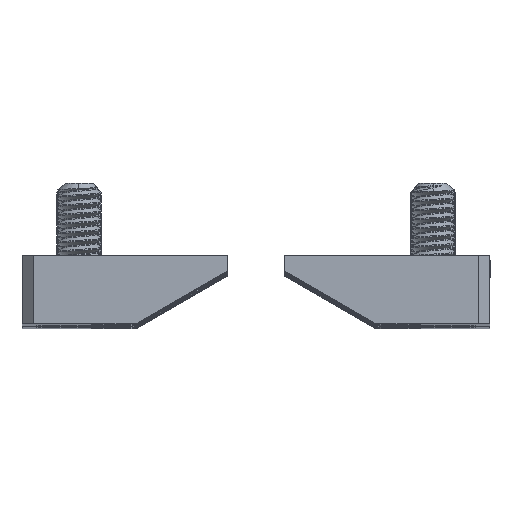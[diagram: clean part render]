
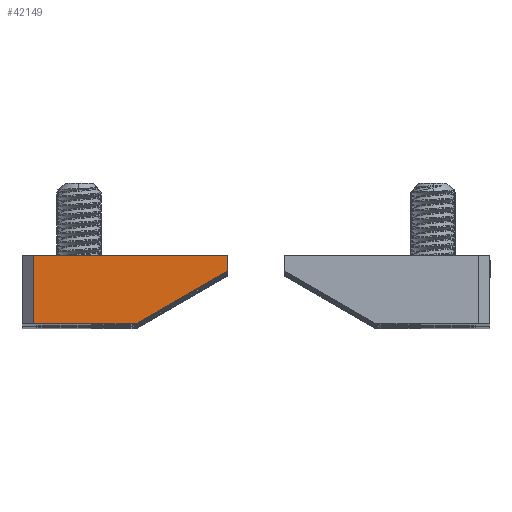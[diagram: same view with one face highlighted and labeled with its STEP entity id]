
A CAD part, top view. The second image highlights one B-rep face of the part: STEP entity #42149.
In plain terms, the highlighted planar face has unit normal (0, 0, 1).
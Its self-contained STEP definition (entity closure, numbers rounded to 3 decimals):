
#105 = ORIENTED_EDGE ( 'NONE', *, *, #1806, .T. ) ;
#1806 = EDGE_CURVE ( 'NONE', #25087, #12439, #26714, .T. ) ;
#3967 = VECTOR ( 'NONE', #50160, 1000. ) ;
#4708 = CARTESIAN_POINT ( 'NONE',  ( -2.5, 0., 129.1 ) ) ;
#7510 = CARTESIAN_POINT ( 'NONE',  ( -10.5, -6., 129.1 ) ) ;
#9853 = VECTOR ( 'NONE', #41684, 1000. ) ;
#10004 = EDGE_CURVE ( 'NONE', #10334, #25087, #33446, .T. ) ;
#10135 = CARTESIAN_POINT ( 'NONE',  ( -2.5, -1.381, 129.1 ) ) ;
#10334 = VERTEX_POINT ( 'NONE', #47316 ) ;
#11610 = EDGE_CURVE ( 'NONE', #12439, #45438, #50033, .T. ) ;
#12439 = VERTEX_POINT ( 'NONE', #35071 ) ;
#13776 = ORIENTED_EDGE ( 'NONE', *, *, #31383, .T. ) ;
#15291 = DIRECTION ( 'NONE',  ( -1., 0., 0. ) ) ;
#16730 = AXIS2_PLACEMENT_3D ( 'NONE', #17270, #42531, #25243 ) ;
#17017 = ORIENTED_EDGE ( 'NONE', *, *, #10004, .T. ) ;
#17270 = CARTESIAN_POINT ( 'NONE',  ( 0., -2.5, 129.1 ) ) ;
#17538 = EDGE_LOOP ( 'NONE', ( #105, #21344, #38479, #13776, #17017 ) ) ;
#18859 = LINE ( 'NONE', #33176, #9853 ) ;
#21344 = ORIENTED_EDGE ( 'NONE', *, *, #11610, .T. ) ;
#23447 = CARTESIAN_POINT ( 'NONE',  ( -20.5, 0., 129.1 ) ) ;
#25087 = VERTEX_POINT ( 'NONE', #4708 ) ;
#25243 = DIRECTION ( 'NONE',  ( 1., 0., 0. ) ) ;
#25865 = CARTESIAN_POINT ( 'NONE',  ( -19.5, -2.5, 129.1 ) ) ;
#26428 = EDGE_CURVE ( 'NONE', #45438, #51055, #18859, .T. ) ;
#26714 = LINE ( 'NONE', #23447, #29338 ) ;
#29338 = VECTOR ( 'NONE', #15291, 1000. ) ;
#31383 = EDGE_CURVE ( 'NONE', #51055, #10334, #50837, .T. ) ;
#32828 = VECTOR ( 'NONE', #51887, 1000. ) ;
#33176 = CARTESIAN_POINT ( 'NONE',  ( -10.5, -6., 129.1 ) ) ;
#33446 = LINE ( 'NONE', #35731, #32828 ) ;
#35071 = CARTESIAN_POINT ( 'NONE',  ( -19.5, 0., 129.1 ) ) ;
#35731 = CARTESIAN_POINT ( 'NONE',  ( -2.5, 0., 129.1 ) ) ;
#38479 = ORIENTED_EDGE ( 'NONE', *, *, #26428, .T. ) ;
#39821 = VECTOR ( 'NONE', #51640, 1000. ) ;
#41684 = DIRECTION ( 'NONE',  ( 1., 0., 0. ) ) ;
#42144 = PLANE ( 'NONE',  #16730 ) ;
#42149 = ADVANCED_FACE ( 'NONE', ( #47600 ), #42144, .F. ) ;
#42531 = DIRECTION ( 'NONE',  ( 0., 0., -1. ) ) ;
#45438 = VERTEX_POINT ( 'NONE', #48300 ) ;
#47316 = CARTESIAN_POINT ( 'NONE',  ( -2.5, -1.381, 129.1 ) ) ;
#47600 = FACE_OUTER_BOUND ( 'NONE', #17538, .T. ) ;
#48300 = CARTESIAN_POINT ( 'NONE',  ( -19.5, -6., 129.1 ) ) ;
#50033 = LINE ( 'NONE', #25865, #3967 ) ;
#50160 = DIRECTION ( 'NONE',  ( 0., -1., 0. ) ) ;
#50837 = LINE ( 'NONE', #10135, #39821 ) ;
#51055 = VERTEX_POINT ( 'NONE', #7510 ) ;
#51640 = DIRECTION ( 'NONE',  ( 0.866, 0.5, 0. ) ) ;
#51887 = DIRECTION ( 'NONE',  ( 0., 1., 0. ) ) ;
